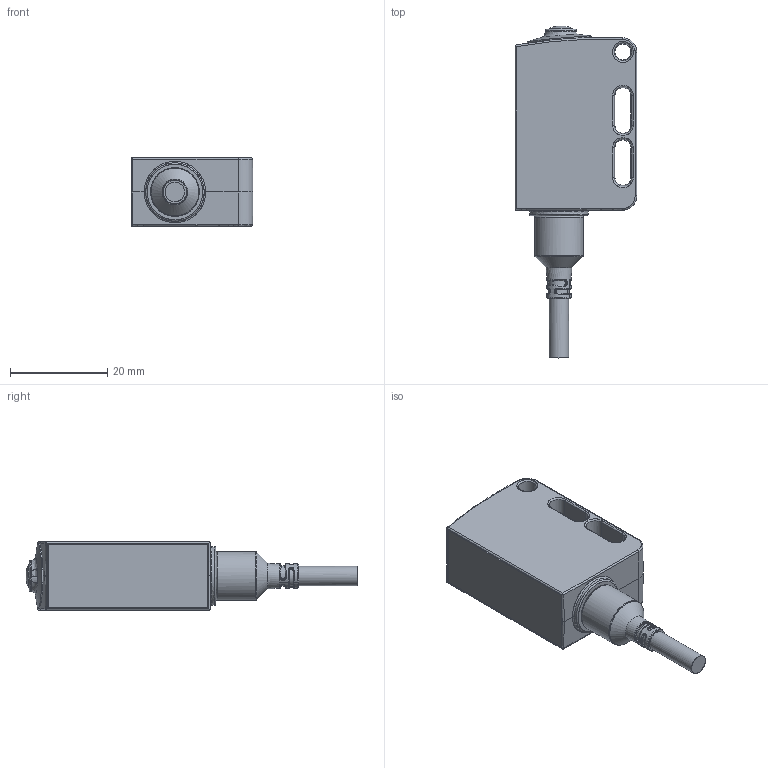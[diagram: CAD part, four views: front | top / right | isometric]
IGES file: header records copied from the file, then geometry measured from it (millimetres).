
Global section: file name: \\leuze.de\dfs01\TempdirOwen\lem\3DCAD_BR55C_Cable.igs; native system: NX V11.0; preprocessor: SIEMENS PLM Software NX 11.0; date: 20220817.153801; units: millimetre
Bounding box: 25 x 68.11 x 14 mm (x, y, z)
Surface area: 4906.9 mm2 (no closed solid volume)
Topology: 0 solids, 0 shells, 172 faces, 1031 edges, 1004 vertices
Faces by surface type: bspline 172
